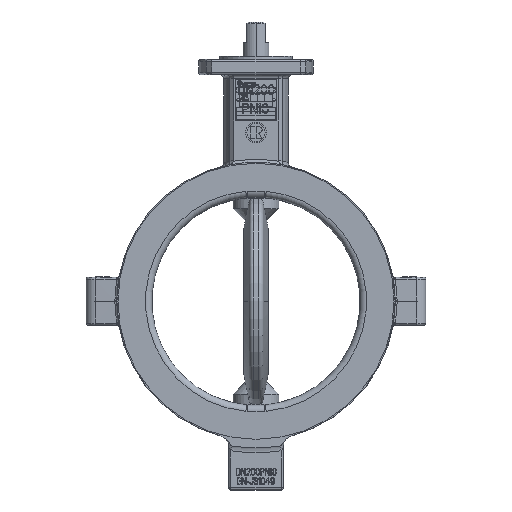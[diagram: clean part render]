
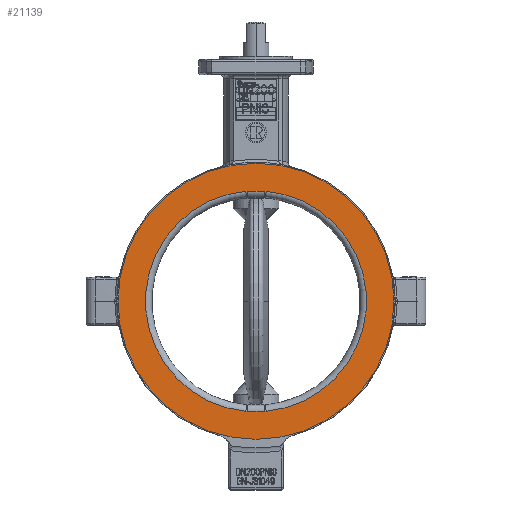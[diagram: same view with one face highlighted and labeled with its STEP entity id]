
A CAD part, top view. The second image highlights one B-rep face of the part: STEP entity #21139.
In plain terms, the highlighted planar face has unit normal (0, 0, 1).
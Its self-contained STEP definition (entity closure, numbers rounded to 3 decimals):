
#614=CARTESIAN_POINT('',(0.,0.,30.));
#615=DIRECTION('',(0.,0.,-1.));
#616=DIRECTION('',(-1.,0.,0.));
#617=AXIS2_PLACEMENT_3D('',#614,#615,#616);
#619=CARTESIAN_POINT('',(0.,0.,30.));
#620=DIRECTION('',(0.,0.,1.));
#621=DIRECTION('',(-1.,0.,0.));
#622=AXIS2_PLACEMENT_3D('',#619,#620,#621);
#624=CARTESIAN_POINT('',(-7.898,-105.632,30.));
#625=CARTESIAN_POINT('',(-8.206,-105.632,30.));
#626=CARTESIAN_POINT('',(-8.817,-105.62,30.));
#627=CARTESIAN_POINT('',(-9.422,-105.581,30.));
#628=CARTESIAN_POINT('',(-9.723,-105.553,30.));
#630=DIRECTION('',(-1.,0.,0.));
#631=VECTOR('',#630,15.797);
#632=CARTESIAN_POINT('',(7.898,-105.632,30.));
#633=LINE('',#632,#631);
#634=CARTESIAN_POINT('',(9.723,-105.553,30.));
#635=CARTESIAN_POINT('',(9.422,-105.581,30.));
#636=CARTESIAN_POINT('',(8.817,-105.62,30.));
#637=CARTESIAN_POINT('',(8.205,-105.632,30.));
#638=CARTESIAN_POINT('',(7.898,-105.632,30.));
#640=CARTESIAN_POINT('',(7.898,105.632,30.));
#641=CARTESIAN_POINT('',(8.206,105.632,30.));
#642=CARTESIAN_POINT('',(8.818,105.62,30.));
#643=CARTESIAN_POINT('',(9.423,105.581,30.));
#644=CARTESIAN_POINT('',(9.723,105.553,30.));
#646=DIRECTION('',(1.,0.,0.));
#647=VECTOR('',#646,15.797);
#648=CARTESIAN_POINT('',(-7.898,105.632,30.));
#649=LINE('',#648,#647);
#650=CARTESIAN_POINT('',(-9.723,105.553,30.));
#651=CARTESIAN_POINT('',(-9.421,105.581,30.));
#652=CARTESIAN_POINT('',(-8.816,105.621,30.));
#653=CARTESIAN_POINT('',(-8.205,105.632,30.));
#654=CARTESIAN_POINT('',(-7.898,105.632,30.));
#1918=CARTESIAN_POINT('',(0.,0.,30.));
#1919=DIRECTION('',(0.,0.,-1.));
#1920=DIRECTION('',(-0.092,-0.996,0.));
#1921=AXIS2_PLACEMENT_3D('',#1918,#1919,#1920);
#1948=CARTESIAN_POINT('',(0.,0.,30.));
#1949=DIRECTION('',(0.,0.,-1.));
#1950=DIRECTION('',(0.092,0.996,0.));
#1951=AXIS2_PLACEMENT_3D('',#1948,#1949,#1950);
#18612=CARTESIAN_POINT('',(-132.5,0.,30.));
#18613=CARTESIAN_POINT('',(132.5,0.,30.));
#18614=VERTEX_POINT('',#18612);
#18615=VERTEX_POINT('',#18613);
#18630=VERTEX_POINT('',#634);
#18631=VERTEX_POINT('',#638);
#18634=CARTESIAN_POINT('',(-7.898,-105.632,
30.));
#18635=VERTEX_POINT('',#18634);
#18638=VERTEX_POINT('',#628);
#18640=VERTEX_POINT('',#650);
#18641=VERTEX_POINT('',#654);
#18644=CARTESIAN_POINT('',(7.898,105.632,30.));
#18645=VERTEX_POINT('',#18644);
#18648=VERTEX_POINT('',#644);
#21111=CARTESIAN_POINT('',(0.,101.75,30.));
#21112=DIRECTION('',(0.,0.,-1.));
#21113=DIRECTION('',(0.,1.,0.));
#21114=AXIS2_PLACEMENT_3D('',#21111,#21112,#21113);
#21115=PLANE('',#21114);
#21117=ORIENTED_EDGE('',*,*,#21116,.T.);
#21119=ORIENTED_EDGE('',*,*,#21118,.F.);
#21120=EDGE_LOOP('',(#21117,#21119));
#21121=FACE_OUTER_BOUND('',#21120,.F.);
#21123=ORIENTED_EDGE('',*,*,#21122,.F.);
#21125=ORIENTED_EDGE('',*,*,#21124,.F.);
#21127=ORIENTED_EDGE('',*,*,#21126,.F.);
#21128=ORIENTED_EDGE('',*,*,#21101,.F.);
#21130=ORIENTED_EDGE('',*,*,#21129,.F.);
#21132=ORIENTED_EDGE('',*,*,#21131,.F.);
#21134=ORIENTED_EDGE('',*,*,#21133,.F.);
#21136=ORIENTED_EDGE('',*,*,#21135,.F.);
#21137=EDGE_LOOP('',(#21123,#21125,#21127,#21128,#21130,#21132,#21134,#21136));
#21138=FACE_BOUND('',#21137,.F.);
#21139=ADVANCED_FACE('',(#21121,#21138),#21115,.F.);
#618=CIRCLE('',#617,132.5);
#623=CIRCLE('',#622,132.5);
#629=B_SPLINE_CURVE_WITH_KNOTS('',3,(#624,#625,#626,#627,#628),.UNSPECIFIED.,
.F.,.F.,(4,1,4),(0.,0.5,1.),.UNSPECIFIED.);
#639=B_SPLINE_CURVE_WITH_KNOTS('',3,(#634,#635,#636,#637,#638),.UNSPECIFIED.,
.F.,.F.,(4,1,4),(0.,0.5,1.),.UNSPECIFIED.);
#645=B_SPLINE_CURVE_WITH_KNOTS('',3,(#640,#641,#642,#643,#644),.UNSPECIFIED.,
.F.,.F.,(4,1,4),(0.,0.5,1.),.UNSPECIFIED.);
#655=B_SPLINE_CURVE_WITH_KNOTS('',3,(#650,#651,#652,#653,#654),.UNSPECIFIED.,
.F.,.F.,(4,1,4),(0.,0.5,1.),.UNSPECIFIED.);
#1922=CIRCLE('',#1921,106.);
#1952=CIRCLE('',#1951,106.);
#21101=EDGE_CURVE('',#18630,#18631,#639,.T.);
#21116=EDGE_CURVE('',#18614,#18615,#618,.T.);
#21118=EDGE_CURVE('',#18614,#18615,#623,.T.);
#21122=EDGE_CURVE('',#18638,#18640,#1922,.T.);
#21124=EDGE_CURVE('',#18635,#18638,#629,.T.);
#21126=EDGE_CURVE('',#18631,#18635,#633,.T.);
#21129=EDGE_CURVE('',#18648,#18630,#1952,.T.);
#21131=EDGE_CURVE('',#18645,#18648,#645,.T.);
#21133=EDGE_CURVE('',#18641,#18645,#649,.T.);
#21135=EDGE_CURVE('',#18640,#18641,#655,.T.);
